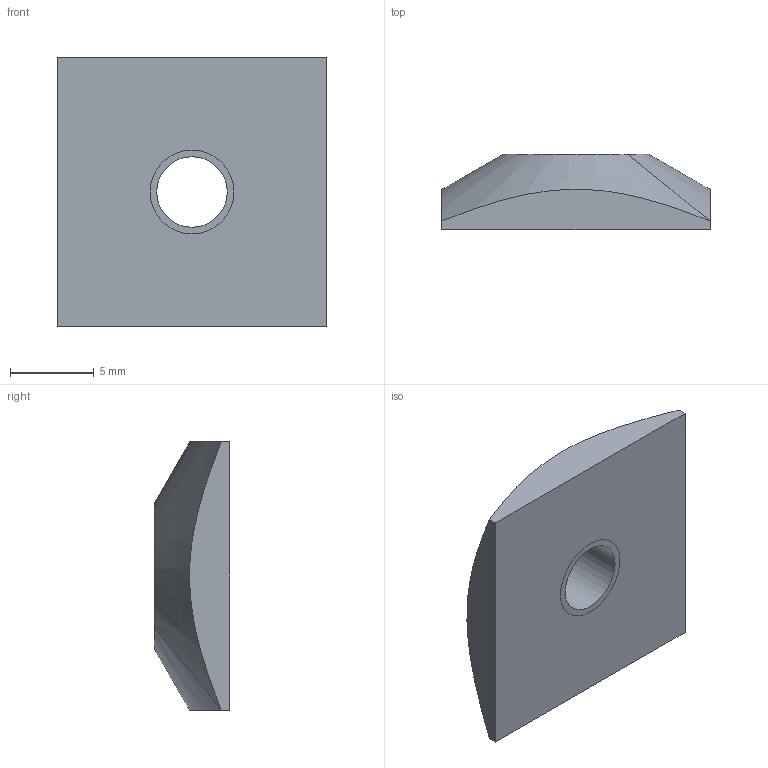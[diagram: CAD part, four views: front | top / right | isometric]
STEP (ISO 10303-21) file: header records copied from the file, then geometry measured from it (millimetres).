
FILE_DESCRIPTION((''),'2;1');
FILE_NAME('DAQ0530','2002-12-27T',('Lipro doo'),('Lipro d.o.o.'),'PRO/ENGINEER BY PARAMETRIC TECHNOLOGY CORPORATION, 2001150','PRO/ENGINEER BY PARAMETRIC TECHNOLOGY CORPORATION, 2001150','');
FILE_SCHEMA(('CONFIG_CONTROL_DESIGN'));
Length unit declared in the file: millimetre
Products named in the file (1): DAQ0530
Bounding box: 16 x 4.5 x 16 mm (x, y, z)
Volume: 776 mm3; surface area: 748.8 mm2
Topology: 1 solids, 2 shells, 14 faces, 32 edges, 20 vertices
Faces by surface type: plane 6, cone 4, cylinder 4
Entity records: 500 total; most frequent: CARTESIAN_POINT 131, DIRECTION 70, ORIENTED_EDGE 60, EDGE_CURVE 32, AXIS2_PLACEMENT_3D 27, VERTEX_POINT 20, VECTOR 16, LINE 16
